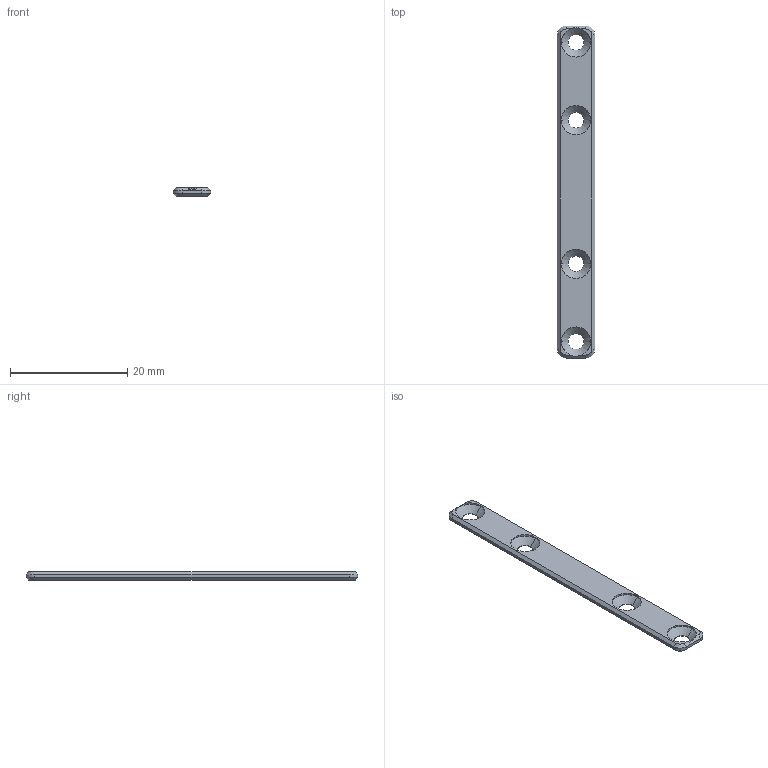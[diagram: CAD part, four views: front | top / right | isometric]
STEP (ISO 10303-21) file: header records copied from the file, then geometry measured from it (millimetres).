
FILE_DESCRIPTION (( 'STEP AP203' ), '1' );
FILE_NAME ('萇喀縐諶揤輸.STEP', '2026-09-24T09:21:07', ( '' ), ( '' ), 'SwSTEP 2.0', 'SolidWorks 2016', '' );
FILE_SCHEMA (( 'CONFIG_CONTROL_DESIGN' ));
Length unit declared in the file: millimetre
Products named in the file (1): 萇喀縐諶揤輸
Bounding box: 6.4 x 56.6 x 1.5 mm (x, y, z)
Volume: 430.1 mm3; surface area: 829.8 mm2
Topology: 1 solids, 1 shells, 50 faces, 118 edges, 68 vertices
Faces by surface type: cylinder 20, cone 16, plane 14
Entity records: 1509 total; most frequent: DIRECTION 268, CARTESIAN_POINT 243, ORIENTED_EDGE 236, EDGE_CURVE 118, AXIS2_PLACEMENT_3D 101, VERTEX_POINT 68, VECTOR 66, LINE 66
